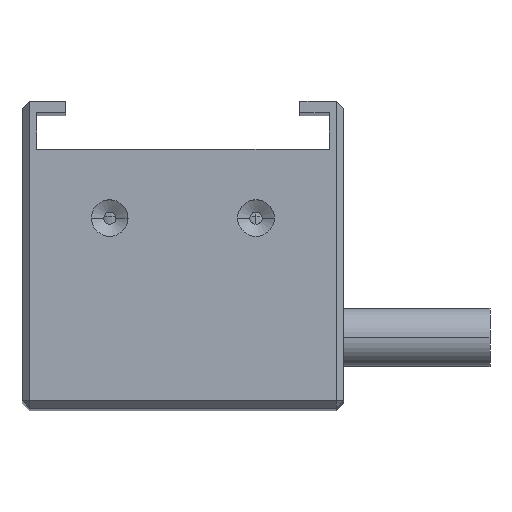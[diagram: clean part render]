
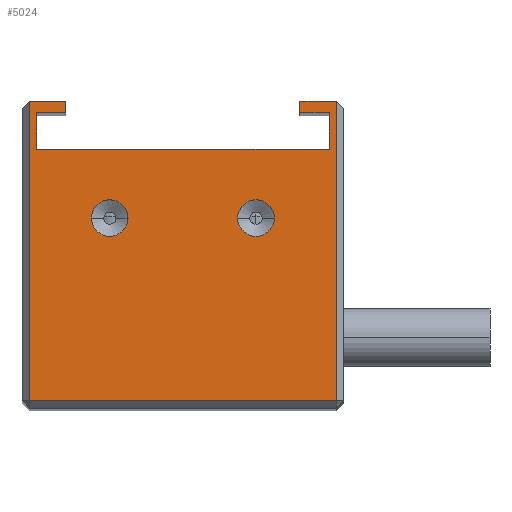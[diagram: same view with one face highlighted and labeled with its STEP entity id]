
A CAD part, top view. The second image highlights one B-rep face of the part: STEP entity #5024.
In plain terms, the highlighted planar face has unit normal (0, 0, 1).
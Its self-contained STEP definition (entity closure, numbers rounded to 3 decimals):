
#46 = VECTOR ( 'NONE', #4974, 1000. ) ;
#54 = CARTESIAN_POINT ( 'NONE',  ( -6.25, 2.5, 56. ) ) ;
#100 = VECTOR ( 'NONE', #5808, 1000. ) ;
#124 = DIRECTION ( 'NONE',  ( -1., 0., 0. ) ) ;
#221 = DIRECTION ( 'NONE',  ( 0., 1., 0. ) ) ;
#599 = CARTESIAN_POINT ( 'NONE',  ( 5., 2.5, 56. ) ) ;
#617 = DIRECTION ( 'NONE',  ( -1., 0., 0. ) ) ;
#775 = AXIS2_PLACEMENT_3D ( 'NONE', #9532, #3356, #10590 ) ;
#779 = VECTOR ( 'NONE', #3048, 1000. ) ;
#785 = LINE ( 'NONE', #1998, #5925 ) ;
#840 = CARTESIAN_POINT ( 'NONE',  ( -10.5, 10.5, 56. ) ) ;
#1240 = EDGE_CURVE ( 'NONE', #3674, #9429, #6550, .T. ) ;
#1251 = EDGE_CURVE ( 'NONE', #6260, #5175, #785, .T. ) ;
#1432 = DIRECTION ( 'NONE',  ( 0., -1., 0. ) ) ;
#1464 = DIRECTION ( 'NONE',  ( 0., -1., 0. ) ) ;
#1512 = VECTOR ( 'NONE', #7454, 1000. ) ;
#1559 = LINE ( 'NONE', #9629, #7000 ) ;
#1636 = DIRECTION ( 'NONE',  ( 1., 0., 0. ) ) ;
#1701 = EDGE_CURVE ( 'NONE', #8033, #9274, #8978, .T. ) ;
#1911 = EDGE_CURVE ( 'NONE', #9817, #6260, #3325, .T. ) ;
#1945 = ORIENTED_EDGE ( 'NONE', *, *, #1911, .T. ) ;
#1998 = CARTESIAN_POINT ( 'NONE',  ( -11., 10.5, 56. ) ) ;
#2023 = FACE_OUTER_BOUND ( 'NONE', #12774, .T. ) ;
#2256 = CIRCLE ( 'NONE', #10674, 1.25 ) ;
#2325 = CIRCLE ( 'NONE', #10964, 1.25 ) ;
#2422 = DIRECTION ( 'NONE',  ( 0., -1., 0. ) ) ;
#2538 = VERTEX_POINT ( 'NONE', #3707 ) ;
#2635 = LINE ( 'NONE', #7552, #5028 ) ;
#2747 = EDGE_CURVE ( 'NONE', #9293, #3674, #1559, .T. ) ;
#2813 = VERTEX_POINT ( 'NONE', #6629 ) ;
#3048 = DIRECTION ( 'NONE',  ( -1., 0., 0. ) ) ;
#3181 = ORIENTED_EDGE ( 'NONE', *, *, #12358, .T. ) ;
#3233 = LINE ( 'NONE', #10746, #8371 ) ;
#3325 = LINE ( 'NONE', #10618, #11233 ) ;
#3356 = DIRECTION ( 'NONE',  ( 0., 0., 1. ) ) ;
#3478 = CARTESIAN_POINT ( 'NONE',  ( 0., 0., 56. ) ) ;
#3595 = DIRECTION ( 'NONE',  ( 0., 0., 1. ) ) ;
#3674 = VERTEX_POINT ( 'NONE', #6721 ) ;
#3707 = CARTESIAN_POINT ( 'NONE',  ( 3.75, 2.5, 56. ) ) ;
#4180 = VERTEX_POINT ( 'NONE', #6110 ) ;
#4226 = LINE ( 'NONE', #11575, #1512 ) ;
#4749 = FACE_BOUND ( 'NONE', #9646, .T. ) ;
#4910 = LINE ( 'NONE', #8226, #7627 ) ;
#4974 = DIRECTION ( 'NONE',  ( 1., 0., 0. ) ) ;
#5024 = ADVANCED_FACE ( 'NONE', ( #4749, #13321, #2023 ), #9655, .F. ) ;
#5028 = VECTOR ( 'NONE', #1432, 1000. ) ;
#5175 = VERTEX_POINT ( 'NONE', #840 ) ;
#5186 = VERTEX_POINT ( 'NONE', #11110 ) ;
#5244 = LINE ( 'NONE', #9917, #100 ) ;
#5262 = EDGE_CURVE ( 'NONE', #4180, #11890, #4910, .T. ) ;
#5282 = DIRECTION ( 'NONE',  ( 0., 0., 1. ) ) ;
#5510 = LINE ( 'NONE', #6014, #46 ) ;
#5535 = EDGE_CURVE ( 'NONE', #9274, #8033, #2325, .T. ) ;
#5790 = DIRECTION ( 'NONE',  ( 1., 0., 0. ) ) ;
#5808 = DIRECTION ( 'NONE',  ( 0., 1., 0. ) ) ;
#5925 = VECTOR ( 'NONE', #124, 1000. ) ;
#6014 = CARTESIAN_POINT ( 'NONE',  ( -8., 9.7, 56. ) ) ;
#6110 = CARTESIAN_POINT ( 'NONE',  ( -10.5, -10., 56. ) ) ;
#6226 = LINE ( 'NONE', #13297, #779 ) ;
#6260 = VERTEX_POINT ( 'NONE', #10024 ) ;
#6318 = DIRECTION ( 'NONE',  ( -1., 0., 0. ) ) ;
#6550 = LINE ( 'NONE', #10250, #11404 ) ;
#6629 = CARTESIAN_POINT ( 'NONE',  ( 10.5, 10.5, 56. ) ) ;
#6721 = CARTESIAN_POINT ( 'NONE',  ( 8., 9.7, 56. ) ) ;
#6754 = DIRECTION ( 'NONE',  ( 0., 0., -1. ) ) ;
#6924 = ORIENTED_EDGE ( 'NONE', *, *, #9376, .T. ) ;
#6931 = VECTOR ( 'NONE', #6318, 1000. ) ;
#7000 = VECTOR ( 'NONE', #2422, 1000. ) ;
#7025 = ORIENTED_EDGE ( 'NONE', *, *, #8549, .T. ) ;
#7036 = VERTEX_POINT ( 'NONE', #9096 ) ;
#7169 = EDGE_CURVE ( 'NONE', #2813, #9293, #9697, .T. ) ;
#7369 = ORIENTED_EDGE ( 'NONE', *, *, #11034, .F. ) ;
#7388 = AXIS2_PLACEMENT_3D ( 'NONE', #8070, #5282, #5790 ) ;
#7454 = DIRECTION ( 'NONE',  ( 0., 1., 0. ) ) ;
#7552 = CARTESIAN_POINT ( 'NONE',  ( -10.5, 0., 56. ) ) ;
#7627 = VECTOR ( 'NONE', #9286, 1000. ) ;
#7717 = ORIENTED_EDGE ( 'NONE', *, *, #1240, .T. ) ;
#7768 = DIRECTION ( 'NONE',  ( 0., 0., 1. ) ) ;
#8033 = VERTEX_POINT ( 'NONE', #13348 ) ;
#8070 = CARTESIAN_POINT ( 'NONE',  ( -5., 2.5, 56. ) ) ;
#8105 = CARTESIAN_POINT ( 'NONE',  ( 10.5, -10., 56. ) ) ;
#8194 = VERTEX_POINT ( 'NONE', #8391 ) ;
#8226 = CARTESIAN_POINT ( 'NONE',  ( 0., -10., 56. ) ) ;
#8371 = VECTOR ( 'NONE', #1464, 1000. ) ;
#8391 = CARTESIAN_POINT ( 'NONE',  ( -10., 9.7, 56. ) ) ;
#8473 = ORIENTED_EDGE ( 'NONE', *, *, #7169, .T. ) ;
#8549 = EDGE_CURVE ( 'NONE', #8194, #9817, #5510, .T. ) ;
#8552 = CARTESIAN_POINT ( 'NONE',  ( 10., 9.7, 56. ) ) ;
#8831 = EDGE_CURVE ( 'NONE', #5175, #4180, #2635, .T. ) ;
#8855 = ORIENTED_EDGE ( 'NONE', *, *, #8831, .T. ) ;
#8978 = CIRCLE ( 'NONE', #7388, 1.25 ) ;
#9096 = CARTESIAN_POINT ( 'NONE',  ( -10., 7.2, 56. ) ) ;
#9274 = VERTEX_POINT ( 'NONE', #54 ) ;
#9286 = DIRECTION ( 'NONE',  ( 1., 0., 0. ) ) ;
#9293 = VERTEX_POINT ( 'NONE', #10423 ) ;
#9376 = EDGE_CURVE ( 'NONE', #7036, #8194, #4226, .T. ) ;
#9396 = AXIS2_PLACEMENT_3D ( 'NONE', #3478, #6754, #617 ) ;
#9429 = VERTEX_POINT ( 'NONE', #8552 ) ;
#9532 = CARTESIAN_POINT ( 'NONE',  ( 5., 2.5, 56. ) ) ;
#9538 = ORIENTED_EDGE ( 'NONE', *, *, #12709, .F. ) ;
#9616 = DIRECTION ( 'NONE',  ( 1., 0., 0. ) ) ;
#9629 = CARTESIAN_POINT ( 'NONE',  ( 8., 10.5, 56. ) ) ;
#9646 = EDGE_LOOP ( 'NONE', ( #12242, #10732 ) ) ;
#9655 = PLANE ( 'NONE',  #9396 ) ;
#9697 = LINE ( 'NONE', #12517, #6931 ) ;
#9750 = ORIENTED_EDGE ( 'NONE', *, *, #1251, .T. ) ;
#9780 = CARTESIAN_POINT ( 'NONE',  ( -5., 2.5, 56. ) ) ;
#9817 = VERTEX_POINT ( 'NONE', #12343 ) ;
#9917 = CARTESIAN_POINT ( 'NONE',  ( 10.5, 0., 56. ) ) ;
#9922 = ORIENTED_EDGE ( 'NONE', *, *, #10475, .T. ) ;
#9946 = CARTESIAN_POINT ( 'NONE',  ( 10., 7.2, 56. ) ) ;
#10024 = CARTESIAN_POINT ( 'NONE',  ( -8., 10.5, 56. ) ) ;
#10250 = CARTESIAN_POINT ( 'NONE',  ( 8., 9.7, 56. ) ) ;
#10423 = CARTESIAN_POINT ( 'NONE',  ( 8., 10.5, 56. ) ) ;
#10475 = EDGE_CURVE ( 'NONE', #9429, #12911, #3233, .T. ) ;
#10538 = ORIENTED_EDGE ( 'NONE', *, *, #2747, .T. ) ;
#10590 = DIRECTION ( 'NONE',  ( 1., 0., 0. ) ) ;
#10618 = CARTESIAN_POINT ( 'NONE',  ( -8., 10.5, 56. ) ) ;
#10663 = ORIENTED_EDGE ( 'NONE', *, *, #5262, .T. ) ;
#10674 = AXIS2_PLACEMENT_3D ( 'NONE', #599, #7768, #1636 ) ;
#10732 = ORIENTED_EDGE ( 'NONE', *, *, #5535, .F. ) ;
#10746 = CARTESIAN_POINT ( 'NONE',  ( 10., 7.2, 56. ) ) ;
#10824 = DIRECTION ( 'NONE',  ( 1., 0., 0. ) ) ;
#10964 = AXIS2_PLACEMENT_3D ( 'NONE', #9780, #3595, #10824 ) ;
#11034 = EDGE_CURVE ( 'NONE', #5186, #2538, #2256, .T. ) ;
#11110 = CARTESIAN_POINT ( 'NONE',  ( 6.25, 2.5, 56. ) ) ;
#11233 = VECTOR ( 'NONE', #221, 1000. ) ;
#11253 = EDGE_CURVE ( 'NONE', #12911, #7036, #6226, .T. ) ;
#11404 = VECTOR ( 'NONE', #9616, 1000. ) ;
#11575 = CARTESIAN_POINT ( 'NONE',  ( -10., 7.2, 56. ) ) ;
#11682 = CIRCLE ( 'NONE', #775, 1.25 ) ;
#11890 = VERTEX_POINT ( 'NONE', #8105 ) ;
#12108 = EDGE_LOOP ( 'NONE', ( #7369, #9538 ) ) ;
#12242 = ORIENTED_EDGE ( 'NONE', *, *, #1701, .F. ) ;
#12343 = CARTESIAN_POINT ( 'NONE',  ( -8., 9.7, 56. ) ) ;
#12358 = EDGE_CURVE ( 'NONE', #11890, #2813, #5244, .T. ) ;
#12517 = CARTESIAN_POINT ( 'NONE',  ( 8., 10.5, 56. ) ) ;
#12648 = ORIENTED_EDGE ( 'NONE', *, *, #11253, .T. ) ;
#12709 = EDGE_CURVE ( 'NONE', #2538, #5186, #11682, .T. ) ;
#12774 = EDGE_LOOP ( 'NONE', ( #10663, #3181, #8473, #10538, #7717, #9922, #12648, #6924, #7025, #1945, #9750, #8855 ) ) ;
#12911 = VERTEX_POINT ( 'NONE', #9946 ) ;
#13297 = CARTESIAN_POINT ( 'NONE',  ( -10., 7.2, 56. ) ) ;
#13321 = FACE_BOUND ( 'NONE', #12108, .T. ) ;
#13348 = CARTESIAN_POINT ( 'NONE',  ( -3.75, 2.5, 56. ) ) ;
